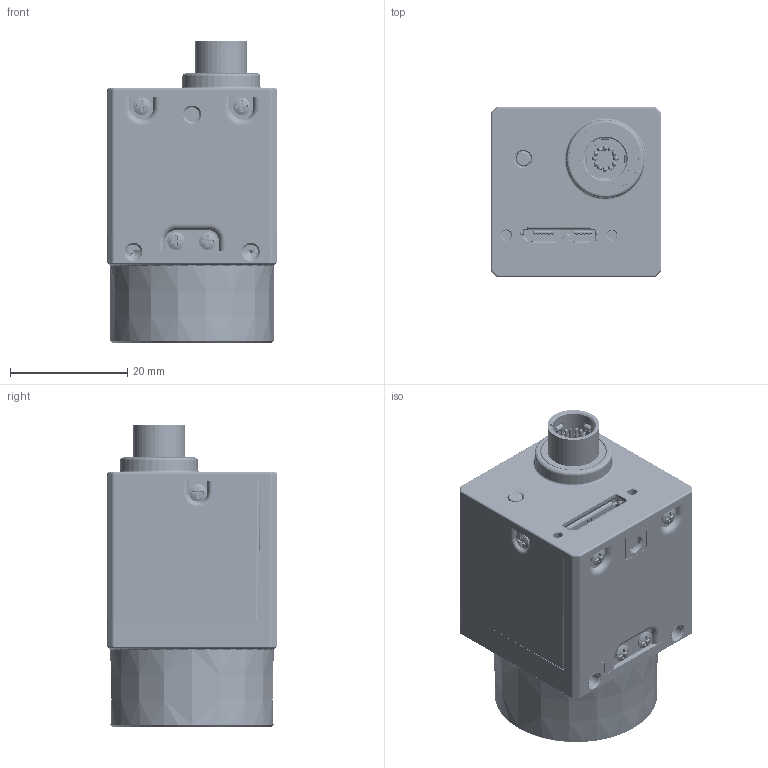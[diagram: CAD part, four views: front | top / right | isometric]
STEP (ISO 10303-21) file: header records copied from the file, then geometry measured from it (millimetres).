
FILE_DESCRIPTION((''),'2;1');
FILE_NAME('00-CUU_ALL_ASM_ASM','2026-05-09T09:50:00',('zhangqianwen8'),(''),'CREO PARAMETRIC BY PTC INC, 2020044','CREO PARAMETRIC BY PTC INC, 2020044','');
FILE_SCHEMA(('CONFIG_CONTROL_DESIGN'));
Products named in the file (49): 102200787_1; D-01-35-26-0007_6_1; DE-17-000301_1; SC_T1M2X3B_2_1; SC_M2_ASM_4_ASM; 100300075_1; 100300266_1; 910300003_ASM_1_ASM; 101301864_2; 100600450_1; 100600451_1; 910600503_ASM_1_ASM; MV-23312REV10-0408_ASM_3_ASM; PCB_ALL_ASM_3_ASM; FRONT_COMPONENT_ASM_4_ASM; 101305700_FAL_1_1; 101305700_FAL_1_2; 101305700_FAL_1_3; 101305700_FAL_1_4; 101305700_FAL_1_5; 101305700_FAL_1_ASM; HANGKONGTOU_ASM_1_ASM; 101305700_1_1; 101305700_1_2; 101305700_1_3; 101305700_1_4; 101305700_1_5; 101305700_1_6; 101305700_1_7; 101305700_1_8; 101305700_1_9; 101305700_1_10; 101305700_1_11; 101305700_1_ASM; FPC_2000_3; PI_6; PI_HKT_3; FPC-MV-24103_ASM_7_ASM; D-01-35-26-0837_1; 00_1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
Assembly tree (62 placements, depth 7):
  00-CUU_ALL_ASM_ASM
    00-CUU_ALL_ASM_29_ASM
      FRONT_COMPONENT_ASM_4_ASM
        102200787_1
        D-01-35-26-0007_6_1
        DE-17-000301_1
        SC_M2_ASM_4_ASM
          SC_T1M2X3B_2_1  x11
        PCB_ALL_ASM_3_ASM
          MV-23312REV10-0408_ASM_3_ASM
            910300003_ASM_1_ASM  x3
              100300075_1
              100300266_1
            101301864_2
            910600503_ASM_1_ASM
              100600450_1
              100600451_1
      BACK_COMPONENT_ASM_5_ASM
        HANGKONGTOU_ASM_1_ASM
          101305700_FAL_1_ASM
            101305700_FAL_1_1
            101305700_FAL_1_2
            101305700_FAL_1_3
            101305700_FAL_1_4
            101305700_FAL_1_5
        101305700_1_ASM
          101305700_1_1
          101305700_1_2
          101305700_1_3
          101305700_1_4
          101305700_1_5
          101305700_1_6
          101305700_1_7
          101305700_1_8
          101305700_1_9
          101305700_1_10
          101305700_1_11
        FPC-MV-24103_ASM_7_ASM
          FPC_2000_3
          PI_6
          PI_HKT_3
        D-01-35-26-0837_1
        00_1
        DE-19-002495_1
      DE-13-002107_3
      XIAGAIV2_13
      DE-11-014939_ASM_3_ASM
        DE-11-012834_4
      HOUGAI-2_11
      SC_T1M2X3B_2_1  x2
Bounding box: 29 x 29 x 51.28 mm (x, y, z)
Volume: 16034.3 mm3; surface area: 22805.1 mm2
Topology: 51 solids, 89 shells, 5002 faces, 13777 edges, 8904 vertices
Faces by surface type: plane 1918, cylinder 1320, bspline 936, cone 425, torus 330, extrusion 39, sphere 34
Entity records: 182004 total; most frequent: CARTESIAN_POINT 86515, ORIENTED_EDGE 21637, DIRECTION 16930, EDGE_CURVE 10946, VERTEX_POINT 7136, AXIS2_PLACEMENT_3D 5881, VECTOR 5168, LINE 5129
